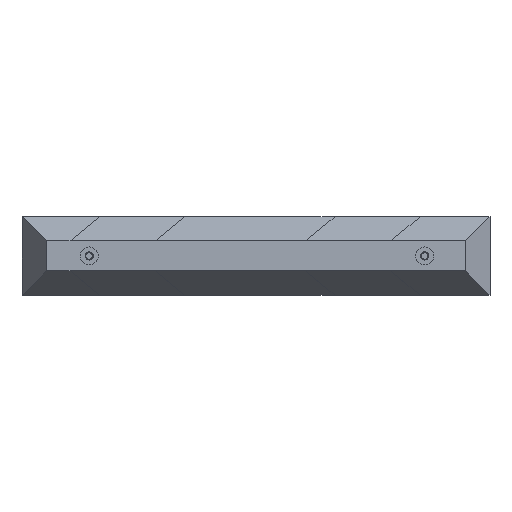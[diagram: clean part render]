
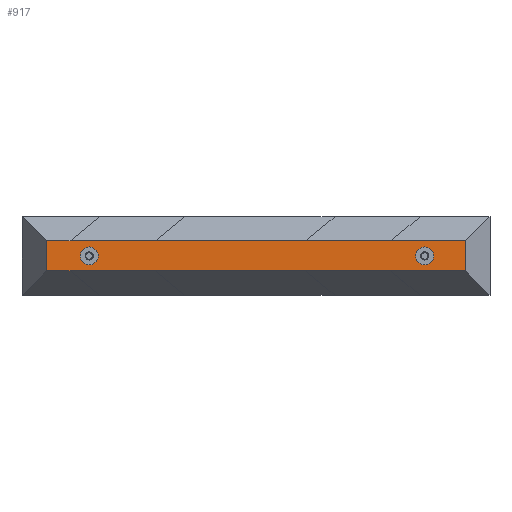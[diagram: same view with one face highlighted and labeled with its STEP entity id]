
A CAD part, top view. The second image highlights one B-rep face of the part: STEP entity #917.
In plain terms, the highlighted planar face has unit normal (0, 0, 1).
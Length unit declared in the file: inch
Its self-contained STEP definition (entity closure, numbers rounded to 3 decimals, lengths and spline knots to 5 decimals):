
#21 = VERTEX_POINT ( 'NONE', #1077 ) ;
#24 = CARTESIAN_POINT ( 'NONE',  ( 3.79247, 1.14781, 4. ) ) ;
#40 = CARTESIAN_POINT ( 'NONE',  ( -17.875, 1.14781, 4. ) ) ;
#60 = CARTESIAN_POINT ( 'NONE',  ( -17.875, -1.14781, 4. ) ) ;
#67 = ORIENTED_EDGE ( 'NONE', *, *, #1616, .F. ) ;
#70 = VERTEX_POINT ( 'NONE', #1647 ) ;
#97 = EDGE_CURVE ( 'NONE', #1287, #1356, #224, .T. ) ;
#122 = VERTEX_POINT ( 'NONE', #1381 ) ;
#133 = DIRECTION ( 'NONE',  ( 0., -1., 0. ) ) ;
#139 = EDGE_CURVE ( 'NONE', #257, #806, #178, .T. ) ;
#156 = VECTOR ( 'NONE', #679, 39.37008 ) ;
#178 = LINE ( 'NONE', #561, #1674 ) ;
#191 = CARTESIAN_POINT ( 'NONE',  ( 12.1975, 0., 4. ) ) ;
#192 = EDGE_LOOP ( 'NONE', ( #1596, #1027, #413, #906, #1612, #1636, #1142, #1751, #329, #668, #1723, #1292 ) ) ;
#198 = LINE ( 'NONE', #684, #1410 ) ;
#224 = LINE ( 'NONE', #1633, #1635 ) ;
#230 = CARTESIAN_POINT ( 'NONE',  ( -14.20753, 1.14781, 4. ) ) ;
#236 = DIRECTION ( 'NONE',  ( 1., 0., 0. ) ) ;
#250 = LINE ( 'NONE', #530, #1669 ) ;
#251 = AXIS2_PLACEMENT_3D ( 'NONE', #410, #1243, #695 ) ;
#257 = VERTEX_POINT ( 'NONE', #1276 ) ;
#266 = VERTEX_POINT ( 'NONE', #1271 ) ;
#269 = CARTESIAN_POINT ( 'NONE',  ( -16.02281, -1.14781, 4. ) ) ;
#278 = LINE ( 'NONE', #60, #1323 ) ;
#281 = CARTESIAN_POINT ( 'NONE',  ( -12.745, 0., 4. ) ) ;
#285 = CARTESIAN_POINT ( 'NONE',  ( -12.745, 0., 4. ) ) ;
#302 = LINE ( 'NONE', #40, #657 ) ;
#329 = ORIENTED_EDGE ( 'NONE', *, *, #1060, .T. ) ;
#344 = PLANE ( 'NONE',  #1020 ) ;
#360 = DIRECTION ( 'NONE',  ( 0., 0., 1. ) ) ;
#388 = EDGE_CURVE ( 'NONE', #770, #21, #1167, .T. ) ;
#408 = DIRECTION ( 'NONE',  ( 0., 0., 1. ) ) ;
#410 = CARTESIAN_POINT ( 'NONE',  ( 12.885, 0., 4. ) ) ;
#413 = ORIENTED_EDGE ( 'NONE', *, *, #97, .F. ) ;
#417 = DIRECTION ( 'NONE',  ( 1., 0., 0. ) ) ;
#465 = VERTEX_POINT ( 'NONE', #894 ) ;
#466 = DIRECTION ( 'NONE',  ( -1., 0., 0. ) ) ;
#471 = CIRCLE ( 'NONE', #251, 0.6875 ) ;
#501 = VERTEX_POINT ( 'NONE', #520 ) ;
#509 = FACE_BOUND ( 'NONE', #1173, .T. ) ;
#513 = AXIS2_PLACEMENT_3D ( 'NONE', #281, #408, #417 ) ;
#520 = CARTESIAN_POINT ( 'NONE',  ( -12.0575, 0., 4. ) ) ;
#530 = CARTESIAN_POINT ( 'NONE',  ( -16.02281, 3., 4. ) ) ;
#534 = CARTESIAN_POINT ( 'NONE',  ( 16.02281, 1.14781, 4. ) ) ;
#561 = CARTESIAN_POINT ( 'NONE',  ( 3.79247, -1.14781, 4. ) ) ;
#597 = FACE_OUTER_BOUND ( 'NONE', #192, .T. ) ;
#599 = DIRECTION ( 'NONE',  ( 1., 0., 0. ) ) ;
#627 = VERTEX_POINT ( 'NONE', #1079 ) ;
#657 = VECTOR ( 'NONE', #1668, 39.37008 ) ;
#666 = EDGE_CURVE ( 'NONE', #1469, #627, #198, .T. ) ;
#668 = ORIENTED_EDGE ( 'NONE', *, *, #934, .T. ) ;
#669 = DIRECTION ( 'NONE',  ( -1., 0., 0. ) ) ;
#674 = DIRECTION ( 'NONE',  ( 0., 0., 1. ) ) ;
#679 = DIRECTION ( 'NONE',  ( -1., 0., 0. ) ) ;
#684 = CARTESIAN_POINT ( 'NONE',  ( -17.875, 1.14781, 4. ) ) ;
#695 = DIRECTION ( 'NONE',  ( 1., 0., 0. ) ) ;
#730 = EDGE_CURVE ( 'NONE', #1653, #266, #302, .T. ) ;
#733 = CIRCLE ( 'NONE', #1583, 0.6875 ) ;
#736 = CARTESIAN_POINT ( 'NONE',  ( 16.02281, 3., 4. ) ) ;
#743 = CARTESIAN_POINT ( 'NONE',  ( -17.875, -1.14781, 4. ) ) ;
#770 = VERTEX_POINT ( 'NONE', #191 ) ;
#771 = DIRECTION ( 'NONE',  ( 1., 0., 0. ) ) ;
#776 = LINE ( 'NONE', #1194, #156 ) ;
#779 = LINE ( 'NONE', #743, #801 ) ;
#801 = VECTOR ( 'NONE', #599, 39.37008 ) ;
#806 = VERTEX_POINT ( 'NONE', #862 ) ;
#861 = CARTESIAN_POINT ( 'NONE',  ( 3.79247, 1.14781, 4. ) ) ;
#862 = CARTESIAN_POINT ( 'NONE',  ( 3.79247, -1.14781, 4. ) ) ;
#882 = DIRECTION ( 'NONE',  ( 1., 0., 0. ) ) ;
#892 = AXIS2_PLACEMENT_3D ( 'NONE', #1716, #1015, #1732 ) ;
#894 = CARTESIAN_POINT ( 'NONE',  ( -13.4325, 0., 4. ) ) ;
#906 = ORIENTED_EDGE ( 'NONE', *, *, #1515, .T. ) ;
#917 = ADVANCED_FACE ( 'NONE', ( #1505, #509, #597 ), #344, .T. ) ;
#934 = EDGE_CURVE ( 'NONE', #1230, #122, #776, .T. ) ;
#966 = EDGE_LOOP ( 'NONE', ( #67, #1494 ) ) ;
#969 = EDGE_CURVE ( 'NONE', #465, #501, #1278, .T. ) ;
#981 = LINE ( 'NONE', #1567, #1440 ) ;
#1011 = CARTESIAN_POINT ( 'NONE',  ( -17.875, -1.14781, 4. ) ) ;
#1015 = DIRECTION ( 'NONE',  ( 0., 0., 1. ) ) ;
#1020 = AXIS2_PLACEMENT_3D ( 'NONE', #1168, #360, #236 ) ;
#1027 = ORIENTED_EDGE ( 'NONE', *, *, #1341, .T. ) ;
#1060 = EDGE_CURVE ( 'NONE', #266, #1230, #1547, .T. ) ;
#1077 = CARTESIAN_POINT ( 'NONE',  ( 13.5725, 0., 4. ) ) ;
#1079 = CARTESIAN_POINT ( 'NONE',  ( -16.02281, 1.14781, 4. ) ) ;
#1142 = ORIENTED_EDGE ( 'NONE', *, *, #1264, .T. ) ;
#1157 = EDGE_CURVE ( 'NONE', #627, #1678, #250, .T. ) ;
#1167 = CIRCLE ( 'NONE', #892, 0.6875 ) ;
#1168 = CARTESIAN_POINT ( 'NONE',  ( 0., 0., 4. ) ) ;
#1173 = EDGE_LOOP ( 'NONE', ( #1273, #1561 ) ) ;
#1194 = CARTESIAN_POINT ( 'NONE',  ( -17.875, 1.14781, 4. ) ) ;
#1230 = VERTEX_POINT ( 'NONE', #24 ) ;
#1243 = DIRECTION ( 'NONE',  ( 0., 0., 1. ) ) ;
#1264 = EDGE_CURVE ( 'NONE', #70, #1653, #1460, .T. ) ;
#1266 = DIRECTION ( 'NONE',  ( -1., 0., 0. ) ) ;
#1271 = CARTESIAN_POINT ( 'NONE',  ( 10.29247, 1.14781, 4. ) ) ;
#1273 = ORIENTED_EDGE ( 'NONE', *, *, #1690, .F. ) ;
#1275 = EDGE_CURVE ( 'NONE', #122, #1469, #981, .T. ) ;
#1276 = CARTESIAN_POINT ( 'NONE',  ( 10.29247, -1.14781, 4. ) ) ;
#1278 = CIRCLE ( 'NONE', #513, 0.6875 ) ;
#1287 = VERTEX_POINT ( 'NONE', #1434 ) ;
#1292 = ORIENTED_EDGE ( 'NONE', *, *, #666, .T. ) ;
#1308 = EDGE_CURVE ( 'NONE', #257, #70, #779, .T. ) ;
#1323 = VECTOR ( 'NONE', #882, 39.37008 ) ;
#1341 = EDGE_CURVE ( 'NONE', #1678, #1356, #278, .T. ) ;
#1356 = VERTEX_POINT ( 'NONE', #1578 ) ;
#1381 = CARTESIAN_POINT ( 'NONE',  ( -7.70753, 1.14781, 4. ) ) ;
#1394 = VECTOR ( 'NONE', #771, 39.37008 ) ;
#1396 = DIRECTION ( 'NONE',  ( -1., 0., 0. ) ) ;
#1410 = VECTOR ( 'NONE', #1396, 39.37008 ) ;
#1434 = CARTESIAN_POINT ( 'NONE',  ( -7.70753, -1.14781, 4. ) ) ;
#1440 = VECTOR ( 'NONE', #466, 39.37008 ) ;
#1460 = LINE ( 'NONE', #736, #1606 ) ;
#1469 = VERTEX_POINT ( 'NONE', #230 ) ;
#1494 = ORIENTED_EDGE ( 'NONE', *, *, #388, .F. ) ;
#1505 = FACE_BOUND ( 'NONE', #966, .T. ) ;
#1514 = DIRECTION ( 'NONE',  ( 1., 0., 0. ) ) ;
#1515 = EDGE_CURVE ( 'NONE', #1287, #806, #1763, .T. ) ;
#1534 = DIRECTION ( 'NONE',  ( -1., 0., 0. ) ) ;
#1547 = LINE ( 'NONE', #861, #1563 ) ;
#1561 = ORIENTED_EDGE ( 'NONE', *, *, #969, .F. ) ;
#1563 = VECTOR ( 'NONE', #1534, 39.37008 ) ;
#1567 = CARTESIAN_POINT ( 'NONE',  ( -14.20753, 1.14781, 4. ) ) ;
#1578 = CARTESIAN_POINT ( 'NONE',  ( -14.20753, -1.14781, 4. ) ) ;
#1583 = AXIS2_PLACEMENT_3D ( 'NONE', #285, #674, #1514 ) ;
#1596 = ORIENTED_EDGE ( 'NONE', *, *, #1157, .T. ) ;
#1606 = VECTOR ( 'NONE', #1694, 39.37008 ) ;
#1612 = ORIENTED_EDGE ( 'NONE', *, *, #139, .F. ) ;
#1616 = EDGE_CURVE ( 'NONE', #21, #770, #471, .T. ) ;
#1633 = CARTESIAN_POINT ( 'NONE',  ( -14.20753, -1.14781, 4. ) ) ;
#1635 = VECTOR ( 'NONE', #669, 39.37008 ) ;
#1636 = ORIENTED_EDGE ( 'NONE', *, *, #1308, .T. ) ;
#1647 = CARTESIAN_POINT ( 'NONE',  ( 16.02281, -1.14781, 4. ) ) ;
#1653 = VERTEX_POINT ( 'NONE', #534 ) ;
#1668 = DIRECTION ( 'NONE',  ( -1., 0., 0. ) ) ;
#1669 = VECTOR ( 'NONE', #133, 39.37008 ) ;
#1674 = VECTOR ( 'NONE', #1266, 39.37008 ) ;
#1678 = VERTEX_POINT ( 'NONE', #269 ) ;
#1690 = EDGE_CURVE ( 'NONE', #501, #465, #733, .T. ) ;
#1694 = DIRECTION ( 'NONE',  ( 0., 1., 0. ) ) ;
#1716 = CARTESIAN_POINT ( 'NONE',  ( 12.885, 0., 4. ) ) ;
#1723 = ORIENTED_EDGE ( 'NONE', *, *, #1275, .T. ) ;
#1732 = DIRECTION ( 'NONE',  ( 1., 0., 0. ) ) ;
#1751 = ORIENTED_EDGE ( 'NONE', *, *, #730, .T. ) ;
#1763 = LINE ( 'NONE', #1011, #1394 ) ;
